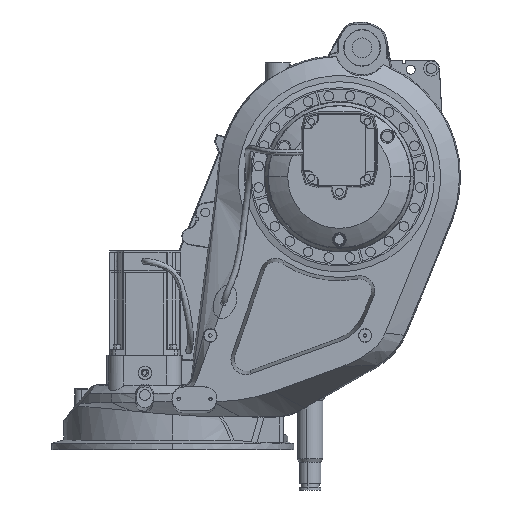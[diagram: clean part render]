
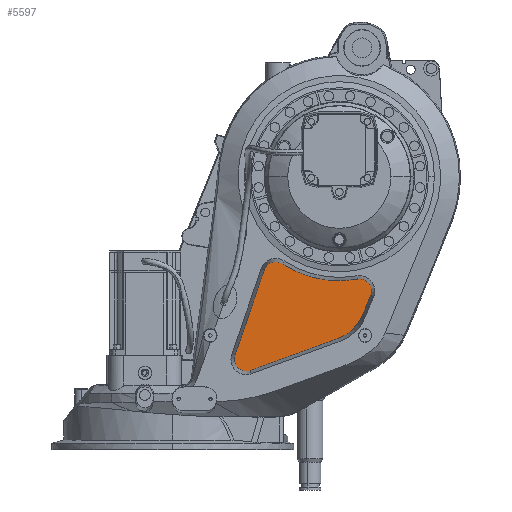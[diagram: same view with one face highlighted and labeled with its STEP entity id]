
A CAD part, front view. The second image highlights one B-rep face of the part: STEP entity #5597.
In plain terms, the highlighted planar face has unit normal (0, -1, 0).
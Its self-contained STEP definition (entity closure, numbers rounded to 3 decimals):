
#731 = EDGE_CURVE ( 'NONE', #57647, #8002, #14992, .T. ) ;
#2657 = VECTOR ( 'NONE', #27133, 1000. ) ;
#3105 = CIRCLE ( 'NONE', #36169, 30. ) ;
#3427 = EDGE_CURVE ( 'NONE', #38809, #13891, #3105, .T. ) ;
#4249 = CARTESIAN_POINT ( 'NONE',  ( 479.611, -260., 653.691 ) ) ;
#5597 = ADVANCED_FACE ( 'NONE', ( #54777 ), #39740, .F. ) ;
#6842 = ORIENTED_EDGE ( 'NONE', *, *, #61131, .T. ) ;
#7869 = DIRECTION ( 'NONE',  ( 0., 1., 0. ) ) ;
#8002 = VERTEX_POINT ( 'NONE', #40185 ) ;
#9042 = CARTESIAN_POINT ( 'NONE',  ( 445.075, -260., 602.484 ) ) ;
#9435 = DIRECTION ( 'NONE',  ( 1., 0., 0. ) ) ;
#9566 = DIRECTION ( 'NONE',  ( 0., -1., 0. ) ) ;
#9649 = CARTESIAN_POINT ( 'NONE',  ( 259.585, -260., 756.01 ) ) ;
#9793 = CARTESIAN_POINT ( 'NONE',  ( 195.398, -260., 511.609 ) ) ;
#13386 = VERTEX_POINT ( 'NONE', #54705 ) ;
#13891 = VERTEX_POINT ( 'NONE', #26862 ) ;
#14534 = VECTOR ( 'NONE', #56569, 1000. ) ;
#14649 = DIRECTION ( 'NONE',  ( 0.94, 0., 0.342 ) ) ;
#14992 = CIRCLE ( 'NONE', #48674, 30. ) ;
#16718 = CARTESIAN_POINT ( 'NONE',  ( 471.011, -260., 712.49 ) ) ;
#16923 = DIRECTION ( 'NONE',  ( 0., 1., 0. ) ) ;
#17240 = CARTESIAN_POINT ( 'NONE',  ( 465.771, -260., 742.029 ) ) ;
#18091 = LINE ( 'NONE', #9793, #41149 ) ;
#21674 = EDGE_CURVE ( 'NONE', #13386, #58225, #44572, .T. ) ;
#23186 = ORIENTED_EDGE ( 'NONE', *, *, #55861, .T. ) ;
#24765 = ORIENTED_EDGE ( 'NONE', *, *, #42705, .T. ) ;
#26146 = ORIENTED_EDGE ( 'NONE', *, *, #21674, .T. ) ;
#26862 = CARTESIAN_POINT ( 'NONE',  ( 231.219, -260., 765.777 ) ) ;
#27133 = DIRECTION ( 'NONE',  ( 0.375, 0., 0.927 ) ) ;
#28153 = DIRECTION ( 'NONE',  ( 0., -1., 0. ) ) ;
#29400 = AXIS2_PLACEMENT_3D ( 'NONE', #35911, #7869, #40534 ) ;
#32633 = CARTESIAN_POINT ( 'NONE',  ( 467.781, -260., 624.411 ) ) ;
#34493 = ORIENTED_EDGE ( 'NONE', *, *, #58991, .T. ) ;
#34945 = VERTEX_POINT ( 'NONE', #58236 ) ;
#35107 = CIRCLE ( 'NONE', #50981, 30. ) ;
#35239 = CIRCLE ( 'NONE', #29400, 262. ) ;
#35911 = CARTESIAN_POINT ( 'NONE',  ( 420., -260., 1000. ) ) ;
#36169 = AXIS2_PLACEMENT_3D ( 'NONE', #9649, #9566, #9435 ) ;
#38809 = VERTEX_POINT ( 'NONE', #54388 ) ;
#39733 = ORIENTED_EDGE ( 'NONE', *, *, #3427, .T. ) ;
#39740 = PLANE ( 'NONE',  #54797 ) ;
#40185 = CARTESIAN_POINT ( 'NONE',  ( 195.398, -260., 511.609 ) ) ;
#40314 = LINE ( 'NONE', #49876, #2657 ) ;
#40534 = DIRECTION ( 'NONE',  ( 1., 0., 0. ) ) ;
#41149 = VECTOR ( 'NONE', #14649, 1000. ) ;
#41613 = CARTESIAN_POINT ( 'NONE',  ( 415.4, -260., 591.683 ) ) ;
#41791 = ORIENTED_EDGE ( 'NONE', *, *, #59843, .T. ) ;
#42490 = CARTESIAN_POINT ( 'NONE',  ( 231.219, -260., 765.777 ) ) ;
#42705 = EDGE_CURVE ( 'NONE', #58225, #34945, #40314, .T. ) ;
#44572 =( BOUNDED_CURVE ( )  B_SPLINE_CURVE ( 3, ( #41613, #9042, #32633, #4249 ),
 .UNSPECIFIED., .F., .F. ) 
 B_SPLINE_CURVE_WITH_KNOTS ( ( 4, 4 ),
 ( 5.865, 6.701 ),
 .UNSPECIFIED. ) 
 CURVE ( )  GEOMETRIC_REPRESENTATION_ITEM ( )  RATIONAL_B_SPLINE_CURVE ( ( 1., 0.943, 0.943, 1. ) ) 
 REPRESENTATION_ITEM ( '' )  );
#46583 = ORIENTED_EDGE ( 'NONE', *, *, #731, .T. ) ;
#46811 = CARTESIAN_POINT ( 'NONE',  ( 156.772, -260., 549.567 ) ) ;
#47241 = DIRECTION ( 'NONE',  ( 1., 0., 0. ) ) ;
#47436 = DIRECTION ( 'NONE',  ( 0., -1., 0. ) ) ;
#47727 = CARTESIAN_POINT ( 'NONE',  ( 185.137, -260., 539.8 ) ) ;
#47772 = CARTESIAN_POINT ( 'NONE',  ( 479.611, -260., 653.691 ) ) ;
#48674 = AXIS2_PLACEMENT_3D ( 'NONE', #47727, #47436, #47241 ) ;
#49057 = DIRECTION ( 'NONE',  ( -1., 0., 0. ) ) ;
#49827 = LINE ( 'NONE', #42490, #14534 ) ;
#49876 = CARTESIAN_POINT ( 'NONE',  ( 461.309, -260., 608.393 ) ) ;
#50981 = AXIS2_PLACEMENT_3D ( 'NONE', #55609, #28153, #60394 ) ;
#54388 = CARTESIAN_POINT ( 'NONE',  ( 276.066, -260., 781.078 ) ) ;
#54705 = CARTESIAN_POINT ( 'NONE',  ( 415.4, -260., 591.683 ) ) ;
#54777 = FACE_OUTER_BOUND ( 'NONE', #58816, .T. ) ;
#54797 = AXIS2_PLACEMENT_3D ( 'NONE', #16718, #16923, #49057 ) ;
#55609 = CARTESIAN_POINT ( 'NONE',  ( 471.011, -260., 712.49 ) ) ;
#55861 = EDGE_CURVE ( 'NONE', #34945, #60866, #35107, .T. ) ;
#56569 = DIRECTION ( 'NONE',  ( -0.326, 0., -0.946 ) ) ;
#57647 = VERTEX_POINT ( 'NONE', #46811 ) ;
#58225 = VERTEX_POINT ( 'NONE', #47772 ) ;
#58236 = CARTESIAN_POINT ( 'NONE',  ( 498.827, -260., 701.252 ) ) ;
#58816 = EDGE_LOOP ( 'NONE', ( #41791, #26146, #24765, #23186, #6842, #39733, #34493, #46583 ) ) ;
#58991 = EDGE_CURVE ( 'NONE', #13891, #57647, #49827, .T. ) ;
#59843 = EDGE_CURVE ( 'NONE', #8002, #13386, #18091, .T. ) ;
#60394 = DIRECTION ( 'NONE',  ( -1., 0., 0. ) ) ;
#60866 = VERTEX_POINT ( 'NONE', #17240 ) ;
#61131 = EDGE_CURVE ( 'NONE', #60866, #38809, #35239, .T. ) ;
